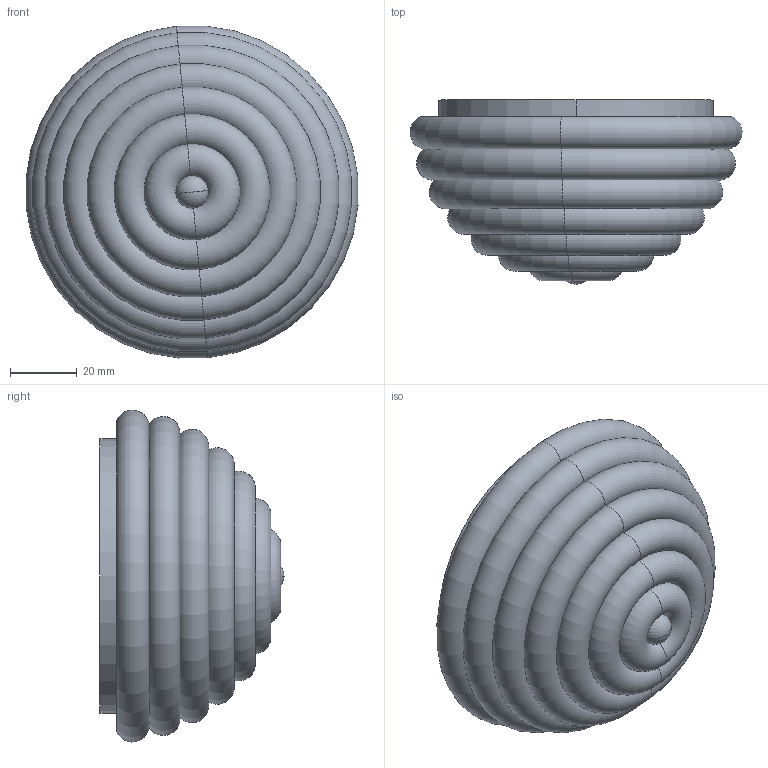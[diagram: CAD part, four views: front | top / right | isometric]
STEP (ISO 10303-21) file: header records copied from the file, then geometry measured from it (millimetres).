
FILE_DESCRIPTION (( 'STEP AP214' ), '1' );
FILE_NAME ('HADO_T1331.STEP', '2024-09-18T08:18:36', ( '' ), ( '' ), 'SwSTEP 2.0', 'SolidWorks 2018', '' );
FILE_SCHEMA (( 'AUTOMOTIVE_DESIGN' ));
Length unit declared in the file: millimetre
Products named in the file (1): HADO_T1331
Bounding box: 99.16 x 55 x 99.16 mm (x, y, z)
Volume: 244248.3 mm3; surface area: 41472.2 mm2
Topology: 2 solids, 2 shells, 30 faces, 58 edges, 35 vertices
Faces by surface type: torus 14, cylinder 8, plane 6, sphere 2
Entity records: 1157 total; most frequent: DIRECTION 170, CARTESIAN_POINT 124, ORIENTED_EDGE 116, AXIS2_PLACEMENT_3D 81, EDGE_CURVE 58, CIRCLE 50, VERTEX_POINT 35, UNCERTAINTY_MEASURE_WITH_UNIT 34
